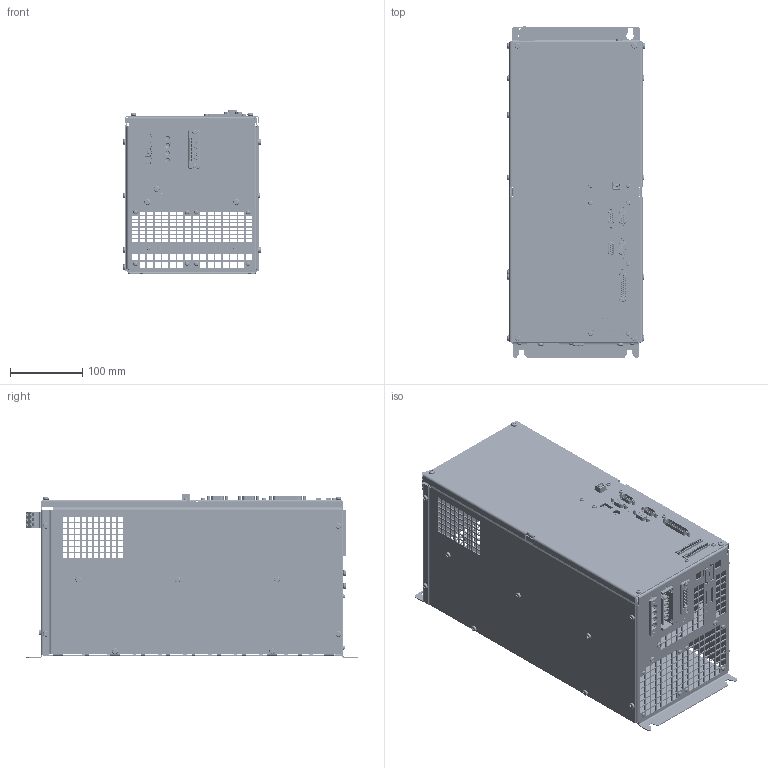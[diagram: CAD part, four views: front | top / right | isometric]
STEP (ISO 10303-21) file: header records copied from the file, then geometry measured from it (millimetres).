
FILE_DESCRIPTION (( 'STEP AP214' ), '1' );
FILE_NAME ('0362146LF.STEP', '2025-01-16T13:45:16', ( '' ), ( '' ), 'SwSTEP 2.0', 'SolidWorks 2023', '' );
FILE_SCHEMA (( 'AUTOMOTIVE_DESIGN' ));
Length unit declared in the file: millimetre
Products named in the file (40): 28011012; 40510265_M4 x 10 DIN 7985 ; 32015806; 42601783; 40550103; SMT_M36_20250106; 40550100; 036210022_13; 28101021; 32045040; PRE0603H_20200001; 42601784; 42601833; 32040165; 32015808; 22520230; F09360101; ELKOD4_21050310; 40550240_M4 Mutter DIN 934; 40510255_M4x6  8.8; 42601879; 0362146LF; SMT_M3_20250100; 42601785; 40590800; 28060112; 40510284_M5x6 DIN 7985 ; 40550101; 28033251; 28033091; 32015697; 40510180_M3x6; 32015696; 28033096
Assembly tree (107 placements, depth 3):
  0362146LF
    42601833
      42601833
      40550101  x7
      40550100  x2
    42601784
      42601784
      40550101  x4
    F09360101
      F09360101
      40550103
    42601783
      42601783
      40550101  x2
    42601785
      42601785
      40550101  x2
    40590800  x8
    42601879
      42601879
      40550101  x4
    036210022_13
      ELKOD4_21050310
      28033096  x2
      SMT_M36_20250106  x7
      28060112
      SMT_M3_20250100
      28033091  x2
      28011012  x2
      28101021
      PRE0603H_20200001  x2
      22520230
      28033251
    32015697
    32015696
    32015808
    32015806
    32045040
    40510255_M4x6  8.8  x24
    40510180_M3x6  x9
    40510284_M5x6 DIN 7985 
    32040165
    40510265_M4 x 10 DIN 7985 
    40550240_M4 Mutter DIN 934  x2
Bounding box: 191 x 460.41 x 227.75 mm (x, y, z)
Volume: 692611.8 mm3; surface area: 942674.8 mm2
Topology: 104 solids, 196 shells, 15912 faces, 44034 edges, 28679 vertices
Faces by surface type: plane 10236, cylinder 4227, bspline 866, cone 401, torus 158, sphere 24
Full cylindrical faces by diameter (mm): 0.457 x6, 0.6 x5, 1.019 x1, 1.2 x24, 1.6 x22, 2 x3, 2.05 x10, 2.3 x6, 2.391 x8, 2.5 x20, 2.8 x5, 3 x9, 3.2 x21, 3.3 x2, 3.35 x4, 3.5 x17, 3.7 x10, 3.8 x6, 3.9 x1, 4 x47, 4.05 x1, 4.2 x5, 4.22 x3, 4.5 x31, 4.67 x1, 4.7 x1, 4.8 x1, 4.9 x6, 5 x1, 5.004 x5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
Entity records: 357460 total; most frequent: CARTESIAN_POINT 93048, ORIENTED_EDGE 57134, DIRECTION 49314, EDGE_CURVE 28714, VECTOR 19892, LINE 19892, VERTEX_POINT 19013, AXIS2_PLACEMENT_3D 14711
